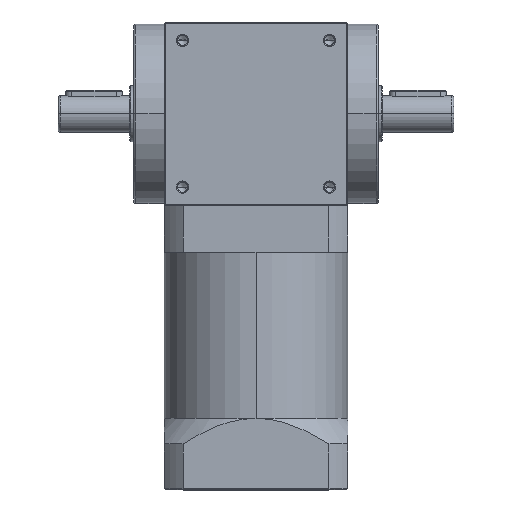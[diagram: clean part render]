
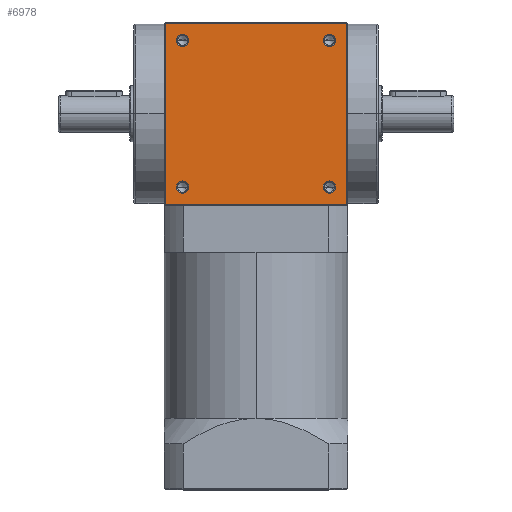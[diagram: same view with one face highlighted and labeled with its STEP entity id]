
A CAD part, top view. The second image highlights one B-rep face of the part: STEP entity #6978.
In plain terms, the highlighted planar face has unit normal (0, 0, 1).
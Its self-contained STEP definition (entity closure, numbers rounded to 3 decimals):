
#22 = AXIS2_PLACEMENT_3D ( 'NONE', #4040, #4144, #9746 ) ;
#354 = AXIS2_PLACEMENT_3D ( 'NONE', #2748, #4271, #2687 ) ;
#420 = EDGE_CURVE ( 'NONE', #4541, #10339, #2075, .T. ) ;
#510 = ORIENTED_EDGE ( 'NONE', *, *, #10227, .T. ) ;
#639 = ORIENTED_EDGE ( 'NONE', *, *, #8672, .T. ) ;
#691 = DIRECTION ( 'NONE',  ( 0., -1., 0. ) ) ;
#779 = CARTESIAN_POINT ( 'NONE',  ( 36., 36., 45. ) ) ;
#788 = CARTESIAN_POINT ( 'NONE',  ( -36., 36., 45. ) ) ;
#941 = CARTESIAN_POINT ( 'NONE',  ( 44.5, -44.5, 45. ) ) ;
#1063 = DIRECTION ( 'NONE',  ( 0., 0., -1. ) ) ;
#1068 = CIRCLE ( 'NONE', #354, 3. ) ;
#1087 = CARTESIAN_POINT ( 'NONE',  ( 33., -36., 45. ) ) ;
#1094 = CARTESIAN_POINT ( 'NONE',  ( 0., -44.5, 45. ) ) ;
#1275 = CIRCLE ( 'NONE', #22, 3. ) ;
#1289 = DIRECTION ( 'NONE',  ( -1., 0., 0. ) ) ;
#1550 = CIRCLE ( 'NONE', #9167, 3. ) ;
#1703 = DIRECTION ( 'NONE',  ( -1., 0., 0. ) ) ;
#1735 = DIRECTION ( 'NONE',  ( 0., 0., -1. ) ) ;
#1885 = PLANE ( 'NONE',  #6150 ) ;
#1929 = DIRECTION ( 'NONE',  ( 1., 0., 0. ) ) ;
#2075 = CIRCLE ( 'NONE', #2894, 3. ) ;
#2113 = AXIS2_PLACEMENT_3D ( 'NONE', #2327, #5445, #7995 ) ;
#2195 = ORIENTED_EDGE ( 'NONE', *, *, #6897, .T. ) ;
#2327 = CARTESIAN_POINT ( 'NONE',  ( 36., 36., 45. ) ) ;
#2371 = VERTEX_POINT ( 'NONE', #941 ) ;
#2535 = DIRECTION ( 'NONE',  ( -1., 0., 0. ) ) ;
#2553 = DIRECTION ( 'NONE',  ( 0., 0., -1. ) ) ;
#2634 = ORIENTED_EDGE ( 'NONE', *, *, #4646, .T. ) ;
#2687 = DIRECTION ( 'NONE',  ( -1., 0., 0. ) ) ;
#2748 = CARTESIAN_POINT ( 'NONE',  ( -36., -36., 45. ) ) ;
#2767 = VERTEX_POINT ( 'NONE', #9350 ) ;
#2801 = ORIENTED_EDGE ( 'NONE', *, *, #6728, .T. ) ;
#2894 = AXIS2_PLACEMENT_3D ( 'NONE', #3022, #4510, #1289 ) ;
#3022 = CARTESIAN_POINT ( 'NONE',  ( -36., 36., 45. ) ) ;
#3381 = DIRECTION ( 'NONE',  ( -1., 0., 0. ) ) ;
#3501 = LINE ( 'NONE', #3988, #6014 ) ;
#3696 = CARTESIAN_POINT ( 'NONE',  ( 44.5, 44.5, 45. ) ) ;
#3889 = DIRECTION ( 'NONE',  ( 0., 0., -1. ) ) ;
#3988 = CARTESIAN_POINT ( 'NONE',  ( -44.5, 0., 45. ) ) ;
#4040 = CARTESIAN_POINT ( 'NONE',  ( 36., -36., 45. ) ) ;
#4144 = DIRECTION ( 'NONE',  ( 0., 0., -1. ) ) ;
#4166 = VECTOR ( 'NONE', #7624, 1000. ) ;
#4271 = DIRECTION ( 'NONE',  ( 0., 0., -1. ) ) ;
#4367 = EDGE_CURVE ( 'NONE', #6307, #6166, #3501, .T. ) ;
#4510 = DIRECTION ( 'NONE',  ( 0., 0., -1. ) ) ;
#4541 = VERTEX_POINT ( 'NONE', #8933 ) ;
#4615 = ORIENTED_EDGE ( 'NONE', *, *, #9983, .T. ) ;
#4646 = EDGE_CURVE ( 'NONE', #8738, #2767, #9336, .T. ) ;
#4689 = FACE_BOUND ( 'NONE', #6585, .T. ) ;
#4802 = ORIENTED_EDGE ( 'NONE', *, *, #8243, .T. ) ;
#5026 = VERTEX_POINT ( 'NONE', #1087 ) ;
#5132 = ORIENTED_EDGE ( 'NONE', *, *, #8027, .T. ) ;
#5404 = EDGE_CURVE ( 'NONE', #5026, #7400, #5675, .T. ) ;
#5429 = FACE_BOUND ( 'NONE', #6098, .T. ) ;
#5445 = DIRECTION ( 'NONE',  ( 0., 0., -1. ) ) ;
#5546 = CARTESIAN_POINT ( 'NONE',  ( -36., -36., 45. ) ) ;
#5675 = CIRCLE ( 'NONE', #10042, 3. ) ;
#5861 = CARTESIAN_POINT ( 'NONE',  ( 0., 0., 45. ) ) ;
#6014 = VECTOR ( 'NONE', #691, 1000. ) ;
#6098 = EDGE_LOOP ( 'NONE', ( #2195, #9901 ) ) ;
#6150 = AXIS2_PLACEMENT_3D ( 'NONE', #5861, #1063, #10040 ) ;
#6166 = VERTEX_POINT ( 'NONE', #10428 ) ;
#6307 = VERTEX_POINT ( 'NONE', #9952 ) ;
#6357 = DIRECTION ( 'NONE',  ( 0., 1., 0. ) ) ;
#6585 = EDGE_LOOP ( 'NONE', ( #9673, #639 ) ) ;
#6721 = CARTESIAN_POINT ( 'NONE',  ( 39., 36., 45. ) ) ;
#6724 = ORIENTED_EDGE ( 'NONE', *, *, #4367, .T. ) ;
#6728 = EDGE_CURVE ( 'NONE', #9915, #7485, #1550, .T. ) ;
#6766 = LINE ( 'NONE', #10471, #10222 ) ;
#6897 = EDGE_CURVE ( 'NONE', #7400, #5026, #1275, .T. ) ;
#6978 = ADVANCED_FACE ( 'NONE', ( #7091, #5429, #10424, #7858, #4689 ), #1885, .F. ) ;
#7091 = FACE_OUTER_BOUND ( 'NONE', #7720, .T. ) ;
#7152 = EDGE_CURVE ( 'NONE', #6166, #2371, #9141, .T. ) ;
#7180 = CARTESIAN_POINT ( 'NONE',  ( -39., -36., 45. ) ) ;
#7220 = AXIS2_PLACEMENT_3D ( 'NONE', #788, #9749, #2535 ) ;
#7302 = CARTESIAN_POINT ( 'NONE',  ( -33., -36., 45. ) ) ;
#7400 = VERTEX_POINT ( 'NONE', #9591 ) ;
#7485 = VERTEX_POINT ( 'NONE', #7302 ) ;
#7624 = DIRECTION ( 'NONE',  ( -1., 0., 0. ) ) ;
#7720 = EDGE_LOOP ( 'NONE', ( #6724, #8381, #4615, #5132 ) ) ;
#7858 = FACE_BOUND ( 'NONE', #10418, .T. ) ;
#7934 = EDGE_LOOP ( 'NONE', ( #510, #2801 ) ) ;
#7983 = LINE ( 'NONE', #10092, #4166 ) ;
#7995 = DIRECTION ( 'NONE',  ( -1., 0., 0. ) ) ;
#8027 = EDGE_CURVE ( 'NONE', #9663, #6307, #7983, .T. ) ;
#8237 = AXIS2_PLACEMENT_3D ( 'NONE', #779, #1735, #1703 ) ;
#8243 = EDGE_CURVE ( 'NONE', #2767, #8738, #9494, .T. ) ;
#8254 = CARTESIAN_POINT ( 'NONE',  ( 36., -36., 45. ) ) ;
#8381 = ORIENTED_EDGE ( 'NONE', *, *, #7152, .T. ) ;
#8672 = EDGE_CURVE ( 'NONE', #10339, #4541, #9100, .T. ) ;
#8738 = VERTEX_POINT ( 'NONE', #6721 ) ;
#8933 = CARTESIAN_POINT ( 'NONE',  ( -33., 36., 45. ) ) ;
#9100 = CIRCLE ( 'NONE', #7220, 3. ) ;
#9141 = LINE ( 'NONE', #1094, #9910 ) ;
#9167 = AXIS2_PLACEMENT_3D ( 'NONE', #5546, #3889, #10413 ) ;
#9336 = CIRCLE ( 'NONE', #2113, 3. ) ;
#9347 = CARTESIAN_POINT ( 'NONE',  ( -39., 36., 45. ) ) ;
#9350 = CARTESIAN_POINT ( 'NONE',  ( 33., 36., 45. ) ) ;
#9494 = CIRCLE ( 'NONE', #8237, 3. ) ;
#9591 = CARTESIAN_POINT ( 'NONE',  ( 39., -36., 45. ) ) ;
#9663 = VERTEX_POINT ( 'NONE', #3696 ) ;
#9673 = ORIENTED_EDGE ( 'NONE', *, *, #420, .T. ) ;
#9746 = DIRECTION ( 'NONE',  ( -1., 0., 0. ) ) ;
#9749 = DIRECTION ( 'NONE',  ( 0., 0., -1. ) ) ;
#9901 = ORIENTED_EDGE ( 'NONE', *, *, #5404, .T. ) ;
#9910 = VECTOR ( 'NONE', #1929, 1000. ) ;
#9915 = VERTEX_POINT ( 'NONE', #7180 ) ;
#9952 = CARTESIAN_POINT ( 'NONE',  ( -44.5, 44.5, 45. ) ) ;
#9983 = EDGE_CURVE ( 'NONE', #2371, #9663, #6766, .T. ) ;
#10040 = DIRECTION ( 'NONE',  ( -1., 0., 0. ) ) ;
#10042 = AXIS2_PLACEMENT_3D ( 'NONE', #8254, #2553, #3381 ) ;
#10092 = CARTESIAN_POINT ( 'NONE',  ( 0., 44.5, 45. ) ) ;
#10222 = VECTOR ( 'NONE', #6357, 1000. ) ;
#10227 = EDGE_CURVE ( 'NONE', #7485, #9915, #1068, .T. ) ;
#10339 = VERTEX_POINT ( 'NONE', #9347 ) ;
#10413 = DIRECTION ( 'NONE',  ( -1., 0., 0. ) ) ;
#10418 = EDGE_LOOP ( 'NONE', ( #2634, #4802 ) ) ;
#10424 = FACE_BOUND ( 'NONE', #7934, .T. ) ;
#10428 = CARTESIAN_POINT ( 'NONE',  ( -44.5, -44.5, 45. ) ) ;
#10471 = CARTESIAN_POINT ( 'NONE',  ( 44.5, 0., 45. ) ) ;
